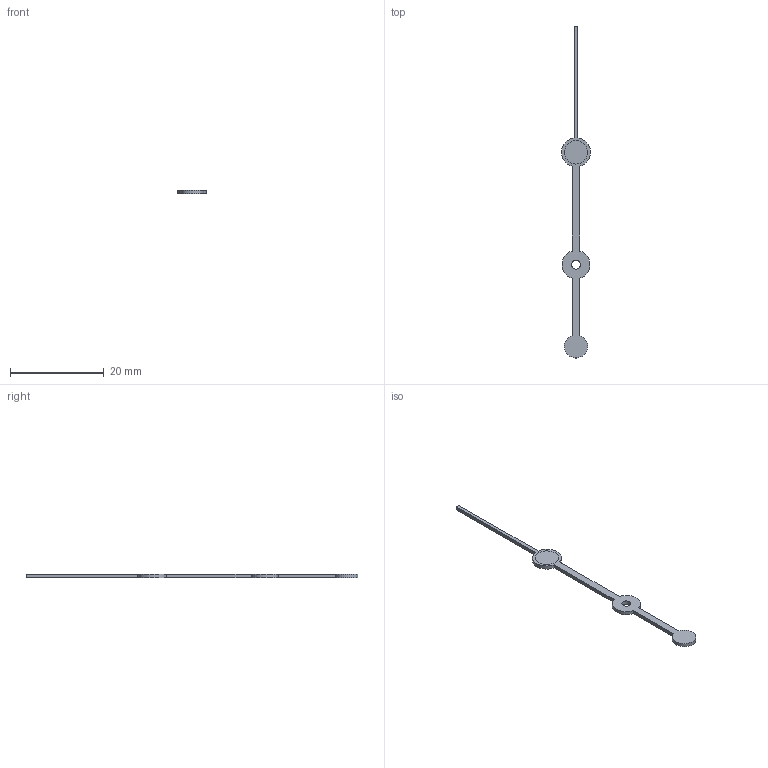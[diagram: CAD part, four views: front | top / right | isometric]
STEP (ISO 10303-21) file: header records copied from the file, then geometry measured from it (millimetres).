
FILE_DESCRIPTION(/* description */ ('STEP AP242','CAx-IF Rec.Pracs.---Representation and Presentation of Product Manufacturing Information (PMI)---4.0---2014-10-13','CAx-IF Rec.Pracs.---3D Tessellated Geometry---0.4---2014-09-14','2;1'),/* implementation_level */ '2;1');
FILE_NAME(/* name */ '66d375b895d81402515f62ce',/* time_stamp */ '2024-08-31T19:57:44Z',/* author */ (''),/* organization */ (''),/* preprocessor_version */ 'ST-DEVELOPER v20',/* originating_system */ ' ',/* authorisation */ ' ');
FILE_SCHEMA (('AP242_MANAGED_MODEL_BASED_3D_ENGINEERING_MIM_LF { 1 0 10303 442 1 1 4 }'));
Length unit declared in the file: metre
Products named in the file (2): secondhand; secondhandlumen
Bounding box: 6.19 x 70.94 x 0.8 mm (x, y, z)
Volume: 113.9 mm3; surface area: 439.5 mm2
Topology: 2 solids, 2 shells, 19 faces, 45 edges, 30 vertices
Faces by surface type: plane 11, cylinder 8
Full cylindrical faces by diameter (mm): 1.9 x1, 5 x2
Entity records: 596 total; most frequent: DIRECTION 100, CARTESIAN_POINT 93, ORIENTED_EDGE 84, EDGE_CURVE 42, AXIS2_PLACEMENT_3D 37, VERTEX_POINT 30, LINE 26, VECTOR 26
